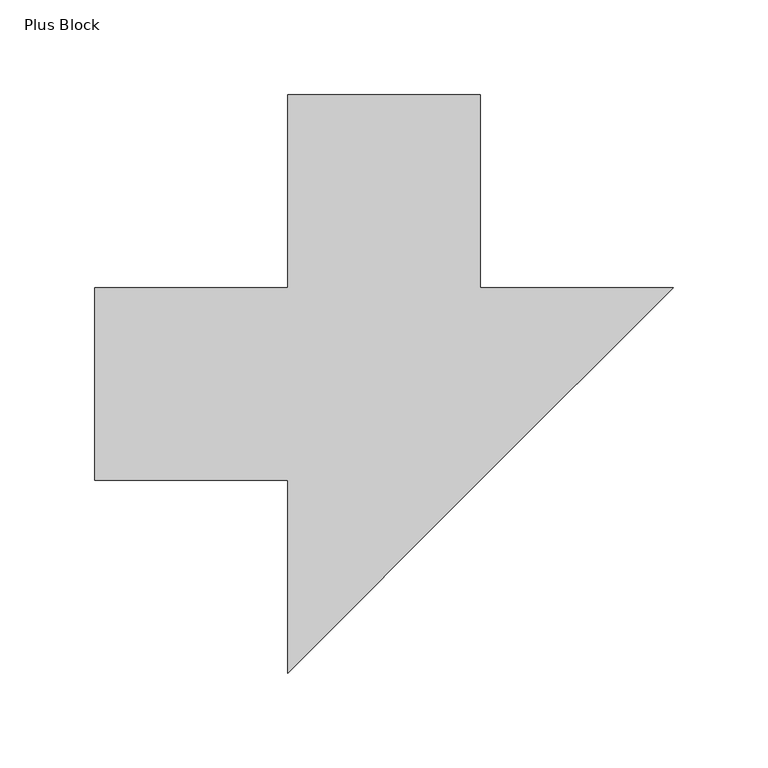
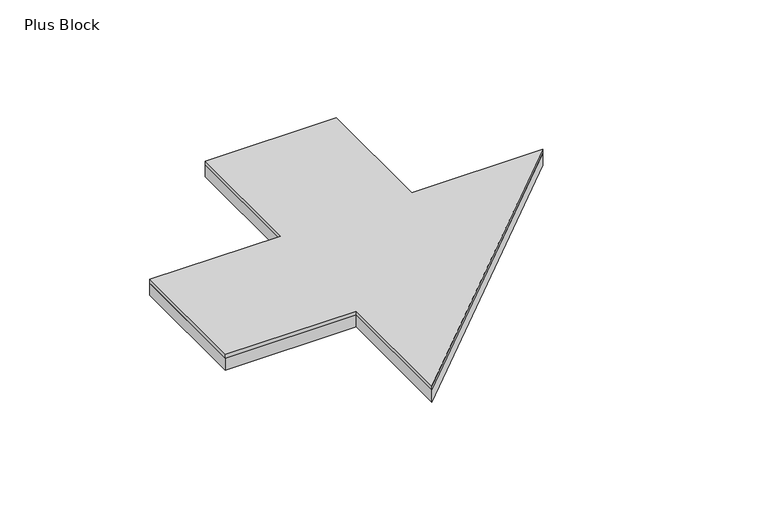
"""IFC4 building model written with IfcOpenShell, lengths in millimetres: proxy geometry, FilzFelt_Plus_Block : Plus Block."""

from ifc_helpers import new_model, si_unit, origin, place, context, project, spatial, faceted_brep, source, transform, mapped, element, save


def plus_block_9b29f26b(model_context):
    return source(origin(), model_context, "Body", "Brep", [
        faceted_brep([(50.8333333, 50.8333333, 10.0210937), (152.5, 50.8333333, 10.0210937), (50.8333333, -50.8333333, 10.0210937), (-50.8333333, -152.5, 10.0210937), (-50.8333333, -50.8333333, 10.0210937), (-152.5, -50.8333333, 10.0210937), (-152.5, 50.8333333, 10.0210937), (-50.8333333, 50.8333333, 10.0210937), (-50.8333333, 152.5, 10.0210937), (50.8333333, 152.5, 10.0210937), (50.8333333, 50.8333333, 12.9976563), (50.8333333, 152.5, 12.9976563), (-50.8333333, 152.5, 12.9976563), (-50.8333333, 50.8333333, 12.9976563), (-152.5, 50.8333333, 12.9976563), (-152.5, -50.8333333, 12.9976563), (-50.8333333, -50.8333333, 12.9976563), (-50.8333333, -152.5, 12.9976563), (50.8333333, -50.8333333, 12.9976563), (152.5, 50.8333333, 12.9976563)], [[[0, 1, 2, 3, 4, 5, 6, 7, 8, 9]], [[10, 11, 12, 13, 14, 15, 16, 17, 18, 19]], [[1, 0, 10, 19]], [[4, 3, 17, 16]], [[5, 4, 16, 15]], [[6, 5, 15, 14]], [[7, 6, 14, 13]], [[8, 7, 13, 12]], [[9, 8, 12, 11]], [[0, 9, 11, 10]], [[2, 1, 19, 18, 17, 3]]]),
        faceted_brep([(-152.5, -50.8333333, 0.0), (-152.5, 50.8333333, 0.0), (-50.8333333, 50.8333333, 0.0), (-50.8333333, 152.5, 0.0), (50.8333333, 152.5, 0.0), (50.8333333, 50.8333333, 0.0), (152.5, 50.8333333, 0.0), (50.8333333, -50.8333333, 0.0), (-50.8333333, -152.5, 0.0), (-50.8333333, -50.8333333, 0.0), (-152.5, -50.8333333, 10.0210937), (-50.8333333, -50.8333333, 10.0210937), (-50.8333333, -152.5, 10.0210937), (50.8333333, -50.8333333, 10.0210937), (152.5, 50.8333333, 10.0210937), (50.8333333, 50.8333333, 10.0210937), (50.8333333, 152.5, 10.0210937), (-50.8333333, 152.5, 10.0210937), (-50.8333333, 50.8333333, 10.0210937), (-152.5, 50.8333333, 10.0210937)], [[[0, 1, 2, 3, 4, 5, 6, 7, 8, 9]], [[10, 11, 12, 13, 14, 15, 16, 17, 18, 19]], [[1, 0, 10, 19]], [[4, 3, 17, 16]], [[2, 1, 19, 18]], [[3, 2, 18, 17]], [[5, 4, 16, 15]], [[6, 5, 15, 14]], [[9, 8, 12, 11]], [[0, 9, 11, 10]], [[7, 6, 14, 13, 12, 8]]]),
    ])


if __name__ == "__main__":
    model = new_model("IFC4")
    model_context = context("Model", 3, world=origin())
    ifc_project = project(units=[si_unit("LENGTHUNIT", "METRE", prefix="MILLI")], contexts=[model_context])
    site = spatial("IfcSite", under=ifc_project)
    building = spatial("IfcBuilding", under=site)
    placement = place(None, origin())
    plus_block_shape = plus_block_9b29f26b(model_context)
    element("IfcBuildingElementProxy", 1, Name="FilzFelt_Plus_Block : Plus Block", ObjectType="FilzFelt_Plus_Block : Plus Block", at=placement, inside=building, context=model_context, shape_type="MappedRepresentation", body=[
        mapped(plus_block_shape, transform((0.0, 0.0, 0.0), x_axis=(1.0, 0.0, 0.0), y_axis=(0.0, 1.0, 0.0), z_axis=(0.0, 0.0, 1.0))),
    ])
    save(model, "model.ifc")
